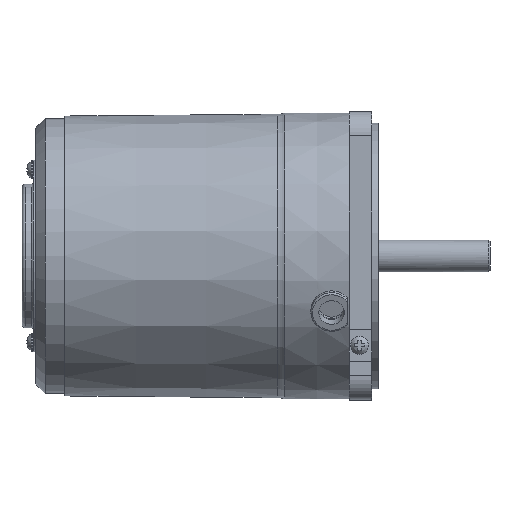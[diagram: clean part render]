
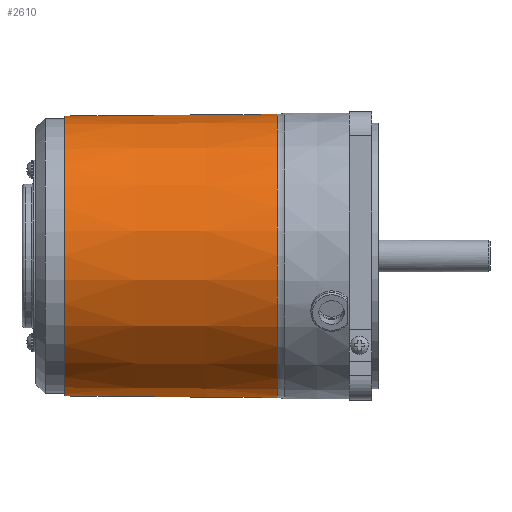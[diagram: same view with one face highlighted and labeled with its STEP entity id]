
A CAD part, top view. The second image highlights one B-rep face of the part: STEP entity #2610.
In plain terms, the highlighted conical face has half-angle 0.48 degrees and reference radius 44.029 mm.
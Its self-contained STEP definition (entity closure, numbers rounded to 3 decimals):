
#15=CONICAL_SURFACE('',#2852,44.029,0.48);
#534=FACE_BOUND('',#855,.T.);
#661=FACE_OUTER_BOUND('',#854,.T.);
#854=EDGE_LOOP('',(#2108));
#855=EDGE_LOOP('',(#2109));
#999=CIRCLE('',#2851,43.75);
#1000=CIRCLE('',#2853,44.308);
#1202=VERTEX_POINT('',#4407);
#1203=VERTEX_POINT('',#4410);
#1518=EDGE_CURVE('',#1202,#1202,#999,.T.);
#1519=EDGE_CURVE('',#1203,#1203,#1000,.T.);
#2108=ORIENTED_EDGE('',*,*,#1519,.F.);
#2109=ORIENTED_EDGE('',*,*,#1518,.T.);
#2610=ADVANCED_FACE('',(#661,#534),#15,.T.);
#2851=AXIS2_PLACEMENT_3D('',#4408,#3433,#3434);
#2852=AXIS2_PLACEMENT_3D('',#4409,#3435,#3436);
#2853=AXIS2_PLACEMENT_3D('',#4411,#3437,#3438);
#3433=DIRECTION('center_axis',(1.,0.,0.));
#3434=DIRECTION('ref_axis',(0.,1.,0.));
#3435=DIRECTION('center_axis',(1.,0.,0.));
#3436=DIRECTION('ref_axis',(0.,1.,0.));
#3437=DIRECTION('center_axis',(1.,0.,0.));
#3438=DIRECTION('ref_axis',(0.,1.,0.));
#4407=CARTESIAN_POINT('',(9.,43.75,0.));
#4408=CARTESIAN_POINT('Origin',(9.,0.,0.));
#4409=CARTESIAN_POINT('Origin',(42.279,0.,
0.));
#4410=CARTESIAN_POINT('',(75.559,44.308,0.));
#4411=CARTESIAN_POINT('Origin',(75.559,0.,0.));
